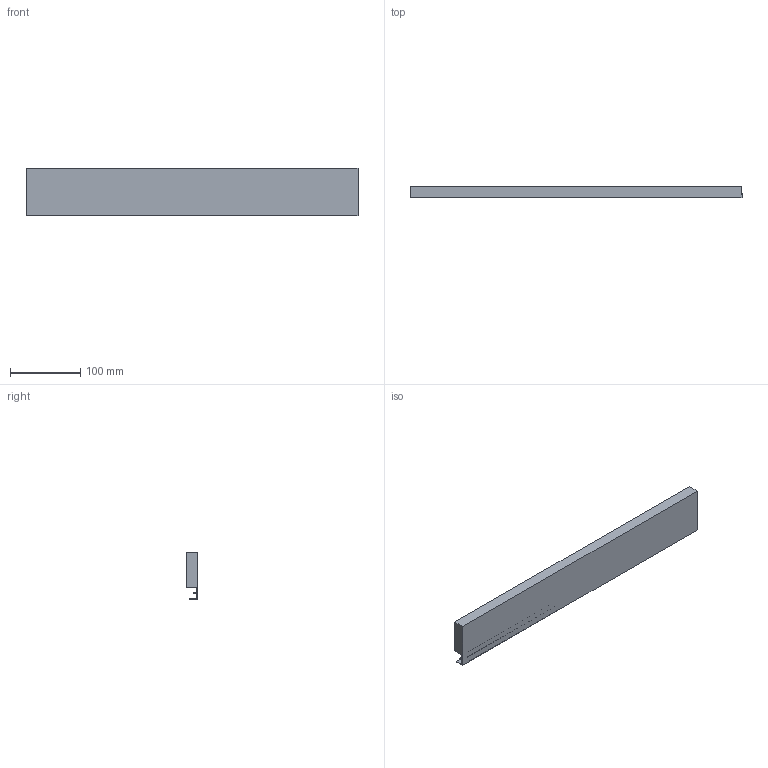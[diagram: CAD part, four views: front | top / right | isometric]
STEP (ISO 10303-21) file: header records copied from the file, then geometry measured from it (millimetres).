
FILE_DESCRIPTION (( 'STEP AP214' ), '1' );
FILE_NAME ('Innenschub-Blendenprofil_KAB600_S19.step', '2010-09-23T12:27:09', ( 'grass' ), ( '' ), 'SwSTEP 2.0', 'SolidWorks 2010', '' );
FILE_SCHEMA (( 'AUTOMOTIVE_DESIGN' ));
Length unit declared in the file: millimetre
Products named in the file (1): Innenschub-Blendenprofil_KAB600_S19
Bounding box: 471 x 15.9 x 67.6 mm (x, y, z)
Volume: 390519.8 mm3; surface area: 94103.2 mm2
Topology: 1 solids, 1 shells, 17 faces, 42 edges, 28 vertices
Faces by surface type: plane 15, cylinder 2
Entity records: 534 total; most frequent: CARTESIAN_POINT 88, ORIENTED_EDGE 84, DIRECTION 82, EDGE_CURVE 42, VECTOR 38, LINE 38, VERTEX_POINT 28, AXIS2_PLACEMENT_3D 22
